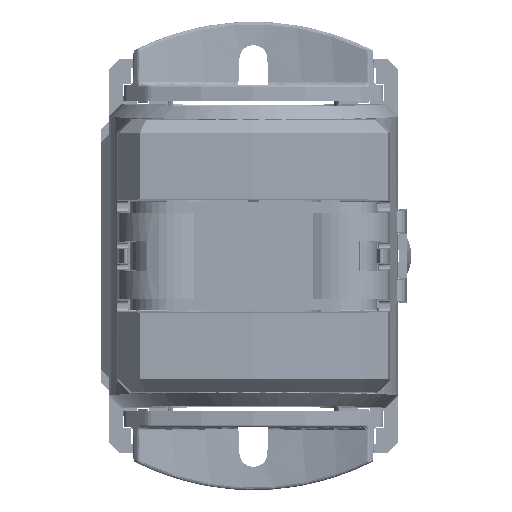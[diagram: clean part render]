
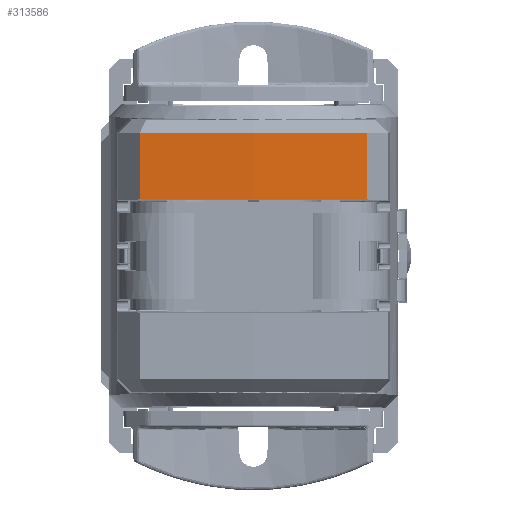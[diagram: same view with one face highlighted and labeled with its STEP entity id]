
A CAD part, front view. The second image highlights one B-rep face of the part: STEP entity #313586.
In plain terms, the highlighted cylindrical face has radius 328.564 mm (diameter 657.128 mm), a partial arc.
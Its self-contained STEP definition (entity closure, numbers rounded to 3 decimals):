
#7418 = CARTESIAN_POINT ( 'NONE',  ( 0., 292.564, 29. ) ) ;
#12651 = CARTESIAN_POINT ( 'NONE',  ( -7.237, -36.238, 23.367 ) ) ;
#14801 = EDGE_CURVE ( 'NONE', #60229, #243323, #248417, .T. ) ;
#22523 = ORIENTED_EDGE ( 'NONE', *, *, #124590, .T. ) ;
#24843 = CARTESIAN_POINT ( 'NONE',  ( 21.649, -35.286, 10.761 ) ) ;
#39170 = LINE ( 'NONE', #219491, #242151 ) ;
#46210 = VERTEX_POINT ( 'NONE', #176610 ) ;
#57939 = CARTESIAN_POINT ( 'NONE',  ( -7.227, -36.238, 10.774 ) ) ;
#59395 = EDGE_CURVE ( 'NONE', #60229, #182911, #287414, .T. ) ;
#60229 = VERTEX_POINT ( 'NONE', #24843 ) ;
#64685 = CARTESIAN_POINT ( 'NONE',  ( 21.649, -35.286, 23.384 ) ) ;
#76013 = VECTOR ( 'NONE', #118019, 1000. ) ;
#89034 = ORIENTED_EDGE ( 'NONE', *, *, #14801, .F. ) ;
#104893 = CARTESIAN_POINT ( 'NONE',  ( -21.649, -35.286, 10.761 ) ) ;
#113951 = DIRECTION ( 'NONE',  ( -1., 0., 0. ) ) ;
#116378 = CYLINDRICAL_SURFACE ( 'NONE', #241702, 328.564 ) ;
#118019 = DIRECTION ( 'NONE',  ( 0., 0., 1. ) ) ;
#124590 = EDGE_CURVE ( 'NONE', #46210, #243323, #39170, .T. ) ;
#137882 = CARTESIAN_POINT ( 'NONE',  ( -21.649, -35.286, 10.761 ) ) ;
#140575 = DIRECTION ( 'NONE',  ( 0., 0., -1. ) ) ;
#167502 = ORIENTED_EDGE ( 'NONE', *, *, #59395, .T. ) ;
#176610 = CARTESIAN_POINT ( 'NONE',  ( -21.649, -35.286, 23.384 ) ) ;
#182911 = VERTEX_POINT ( 'NONE', #339848 ) ;
#197925 = CARTESIAN_POINT ( 'NONE',  ( -21.649, -35.286, 23.384 ) ) ;
#201816 = EDGE_LOOP ( 'NONE', ( #89034, #167502, #244556, #22523 ) ) ;
#219491 = CARTESIAN_POINT ( 'NONE',  ( -21.649, -35.286, 29. ) ) ;
#221027 = EDGE_CURVE ( 'NONE', #182911, #46210, #228986, .T. ) ;
#223390 = CARTESIAN_POINT ( 'NONE',  ( 7.237, -36.238, 23.367 ) ) ;
#228986 = B_SPLINE_CURVE_WITH_KNOTS ( 'NONE', 3,
 ( #64685, #223390, #12651, #197925 ),
 .UNSPECIFIED., .F., .F.,
 ( 4, 4 ),
 ( 0., 1. ),
 .UNSPECIFIED. ) ;
#241702 = AXIS2_PLACEMENT_3D ( 'NONE', #7418, #140575, #113951 ) ;
#242151 = VECTOR ( 'NONE', #246091, 1000. ) ;
#243323 = VERTEX_POINT ( 'NONE', #104893 ) ;
#244556 = ORIENTED_EDGE ( 'NONE', *, *, #221027, .T. ) ;
#246091 = DIRECTION ( 'NONE',  ( 0., 0., -1. ) ) ;
#248417 =( BOUNDED_CURVE ( )  B_SPLINE_CURVE ( 3, ( #296512, #322076, #57939, #137882 ),
 .UNSPECIFIED., .F., .F. ) 
 B_SPLINE_CURVE_WITH_KNOTS ( ( 4, 4 ),
 ( 3.076, 3.208 ),
 .UNSPECIFIED. ) 
 CURVE ( )  GEOMETRIC_REPRESENTATION_ITEM ( )  RATIONAL_B_SPLINE_CURVE ( ( 1., 0.999, 0.999, 1. ) ) 
 REPRESENTATION_ITEM ( '' )  );
#265603 = FACE_OUTER_BOUND ( 'NONE', #201816, .T. ) ;
#276743 = CARTESIAN_POINT ( 'NONE',  ( 21.649, -35.286, 29. ) ) ;
#287414 = LINE ( 'NONE', #276743, #76013 ) ;
#296512 = CARTESIAN_POINT ( 'NONE',  ( 21.649, -35.286, 10.761 ) ) ;
#313586 = ADVANCED_FACE ( 'NONE', ( #265603 ), #116378, .T. ) ;
#322076 = CARTESIAN_POINT ( 'NONE',  ( 7.227, -36.238, 10.774 ) ) ;
#339848 = CARTESIAN_POINT ( 'NONE',  ( 21.649, -35.286, 23.384 ) ) ;
